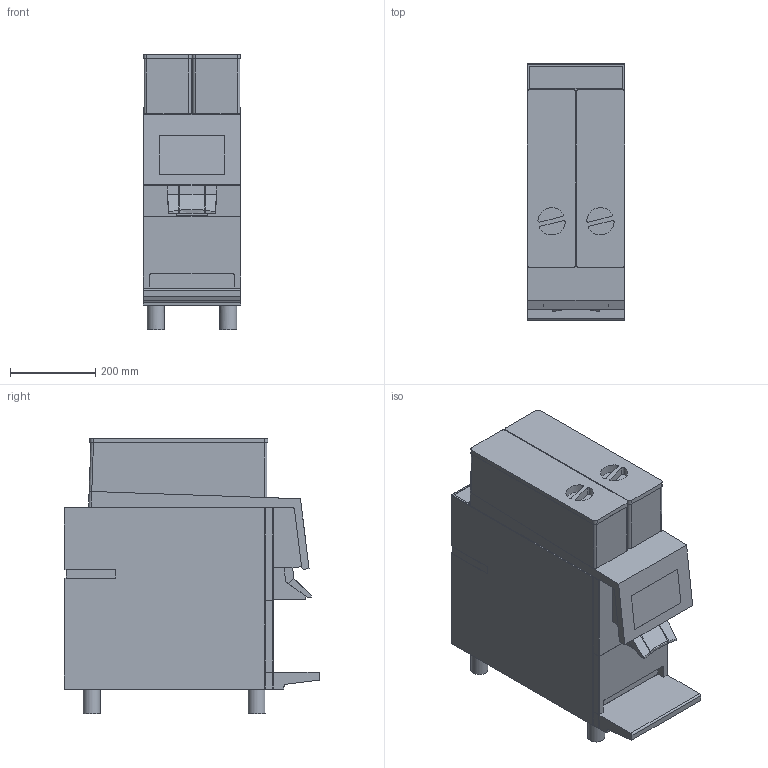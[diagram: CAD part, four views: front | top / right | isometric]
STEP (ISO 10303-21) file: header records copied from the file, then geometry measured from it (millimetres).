
FILE_DESCRIPTION(/* description */ ('Unknown'),/* implementation_level */ '2;1');
FILE_NAME(/* name */ 'HM_BW4c-CTM',/* time_stamp */ '2026-08-14T14:29:27+02:00',/* author */ ('Unknown'),/* organization */ ('Unknown'),/* preprocessor_version */ 'ST-DEVELOPER v20',/* originating_system */ 'Solid Edge',/* authorisation */ 'Unknown');
FILE_SCHEMA (('AUTOMOTIVE_DESIGN {1 0 10303 214 3 1 1}'));
Length unit declared in the file: millimetre
Products named in the file (1): HM_BW4c-CTM
Bounding box: 229.3 x 599.39 x 645.98 mm (x, y, z)
Volume: 65675238 mm3; surface area: 1404677.9 mm2
Topology: 1 solids, 1 shells, 257 faces, 707 edges, 452 vertices
Faces by surface type: plane 185, cylinder 68, sphere 4
Full cylindrical faces by diameter (mm): 40 x4
Entity records: 9887 total; most frequent: CARTESIAN_POINT 1405, ORIENTED_EDGE 1394, DIRECTION 1365, EDGE_CURVE 697, LINE 545, VECTOR 545, VERTEX_POINT 450, AXIS2_PLACEMENT_3D 410
